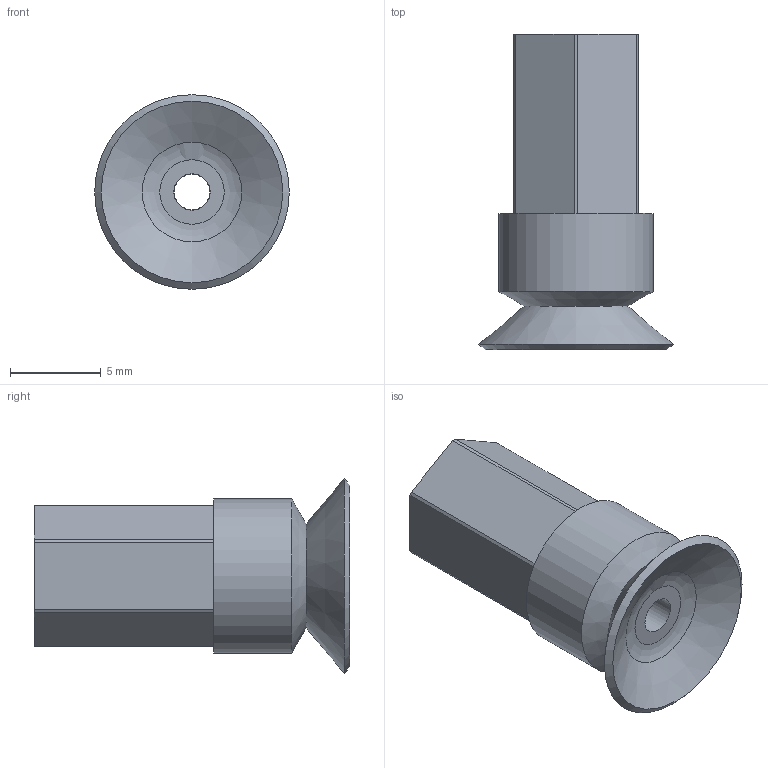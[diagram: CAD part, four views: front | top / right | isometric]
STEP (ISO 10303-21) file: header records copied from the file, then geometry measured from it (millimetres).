
FILE_DESCRIPTION (( 'STEP AP214' ), '1' );
FILE_NAME ('PA10-M5F.STEP', '2025-04-24T13:33:07', ( '' ), ( '' ), 'SwSTEP 2.0', 'SolidWorks 2018', '' );
FILE_SCHEMA (( 'AUTOMOTIVE_DESIGN' ));
Length unit declared in the file: inch
Products named in the file (3): PA10-M5F; 130.005; PA10
Assembly tree (2 placements, depth 2):
  PA10-M5F
    PA10
    130.005
Bounding box: 10.72 x 17.38 x 10.72 mm (x, y, z)
Volume: 611.2 mm3; surface area: 1013.8 mm2
Topology: 2 solids, 2 shells, 38 faces, 80 edges, 50 vertices
Faces by surface type: cylinder 14, plane 14, cone 7, torus 2, bspline 1
Full cylindrical faces by diameter (mm): 1.95 x1, 2 x1, 4 x1, 4.2 x1, 4.25 x1, 6 x2, 8.5 x1
Entity records: 1090 total; most frequent: DIRECTION 182, CARTESIAN_POINT 180, ORIENTED_EDGE 122, AXIS2_PLACEMENT_3D 79, EDGE_LOOP 64, EDGE_CURVE 61, FACE_OUTER_BOUND 49, VERTEX_POINT 49
